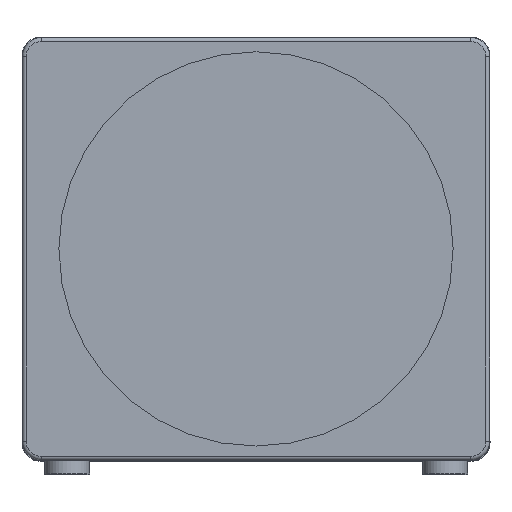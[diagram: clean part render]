
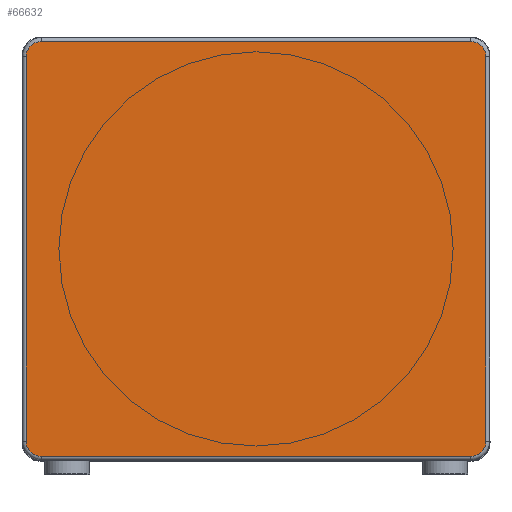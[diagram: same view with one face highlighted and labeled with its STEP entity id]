
A CAD part, top view. The second image highlights one B-rep face of the part: STEP entity #66632.
In plain terms, the highlighted planar face has unit normal (0, 0, 1) as drawn and (0, 0, -1) by its records, which use the part's own axes.
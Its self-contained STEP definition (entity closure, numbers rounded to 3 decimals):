
#6943=CIRCLE('',#72026,17.);
#6946=CIRCLE('',#72030,17.);
#6947=CIRCLE('',#72031,17.);
#6948=CIRCLE('',#72032,17.);
#10424=FACE_OUTER_BOUND('',#14611,.T.);
#14611=EDGE_LOOP('',(#57050,#57051,#57052,#57053,#57054,#57055,#57056,#57057));
#19309=LINE('',#281352,#24406);
#19310=LINE('',#281355,#24407);
#19311=LINE('',#281357,#24408);
#19312=LINE('',#281360,#24409);
#24406=VECTOR('',#85689,477.);
#24407=VECTOR('',#85692,427.);
#24408=VECTOR('',#85693,477.);
#24409=VECTOR('',#85696,427.);
#30738=VERTEX_POINT('',#281342);
#30739=VERTEX_POINT('',#281343);
#30740=VERTEX_POINT('',#281348);
#30741=VERTEX_POINT('',#281349);
#30742=VERTEX_POINT('',#281351);
#30743=VERTEX_POINT('',#281353);
#30744=VERTEX_POINT('',#281356);
#30745=VERTEX_POINT('',#281358);
#39753=EDGE_CURVE('',#30738,#30739,#6943,.T.);
#39756=EDGE_CURVE('',#30740,#30741,#6946,.T.);
#39757=EDGE_CURVE('',#30741,#30742,#19309,.T.);
#39758=EDGE_CURVE('',#30742,#30743,#6947,.T.);
#39759=EDGE_CURVE('',#30743,#30738,#19310,.T.);
#39760=EDGE_CURVE('',#30739,#30744,#19311,.T.);
#39761=EDGE_CURVE('',#30744,#30745,#6948,.T.);
#39762=EDGE_CURVE('',#30745,#30740,#19312,.T.);
#57050=ORIENTED_EDGE('',*,*,#39756,.T.);
#57051=ORIENTED_EDGE('',*,*,#39757,.T.);
#57052=ORIENTED_EDGE('',*,*,#39758,.T.);
#57053=ORIENTED_EDGE('',*,*,#39759,.T.);
#57054=ORIENTED_EDGE('',*,*,#39753,.T.);
#57055=ORIENTED_EDGE('',*,*,#39760,.T.);
#57056=ORIENTED_EDGE('',*,*,#39761,.T.);
#57057=ORIENTED_EDGE('',*,*,#39762,.T.);
#63120=PLANE('',#72029);
#66632=ADVANCED_FACE('',(#10424),#63120,.F.);
#72026=AXIS2_PLACEMENT_3D('',#281344,#85679,#85680);
#72029=AXIS2_PLACEMENT_3D('',#281347,#85685,#85686);
#72030=AXIS2_PLACEMENT_3D('',#281350,#85687,#85688);
#72031=AXIS2_PLACEMENT_3D('',#281354,#85690,#85691);
#72032=AXIS2_PLACEMENT_3D('',#281359,#85694,#85695);
#85679=DIRECTION('center_axis',(0.,0.,-1.));
#85680=DIRECTION('ref_axis',(-1.,0.,0.));
#85685=DIRECTION('center_axis',(0.,0.,1.));
#85686=DIRECTION('ref_axis',(1.,0.,0.));
#85687=DIRECTION('center_axis',(0.,0.,-1.));
#85688=DIRECTION('ref_axis',(1.,0.,0.));
#85689=DIRECTION('',(-1.,0.,0.));
#85690=DIRECTION('center_axis',(0.,0.,-1.));
#85691=DIRECTION('ref_axis',(0.,-1.,0.));
#85692=DIRECTION('',(0.,1.,0.));
#85693=DIRECTION('',(1.,0.,0.));
#85694=DIRECTION('center_axis',(0.,0.,-1.));
#85695=DIRECTION('ref_axis',(0.,1.,0.));
#85696=DIRECTION('',(0.,-1.,0.));
#281342=CARTESIAN_POINT('',(-255.5,213.5,-0.3));
#281343=CARTESIAN_POINT('',(-238.5,230.5,-0.3));
#281344=CARTESIAN_POINT('Origin',(-238.5,213.5,-0.3));
#281347=CARTESIAN_POINT('Origin',(0.,0.,-0.3));
#281348=CARTESIAN_POINT('',(255.5,-213.5,-0.3));
#281349=CARTESIAN_POINT('',(238.5,-230.5,-0.3));
#281350=CARTESIAN_POINT('Origin',(238.5,-213.5,-0.3));
#281351=CARTESIAN_POINT('',(-238.5,-230.5,-0.3));
#281352=CARTESIAN_POINT('',(238.5,-230.5,-0.3));
#281353=CARTESIAN_POINT('',(-255.5,-213.5,-0.3));
#281354=CARTESIAN_POINT('Origin',(-238.5,-213.5,-0.3));
#281355=CARTESIAN_POINT('',(-255.5,-213.5,-0.3));
#281356=CARTESIAN_POINT('',(238.5,230.5,-0.3));
#281357=CARTESIAN_POINT('',(-238.5,230.5,-0.3));
#281358=CARTESIAN_POINT('',(255.5,213.5,-0.3));
#281359=CARTESIAN_POINT('Origin',(238.5,213.5,-0.3));
#281360=CARTESIAN_POINT('',(255.5,213.5,-0.3));
